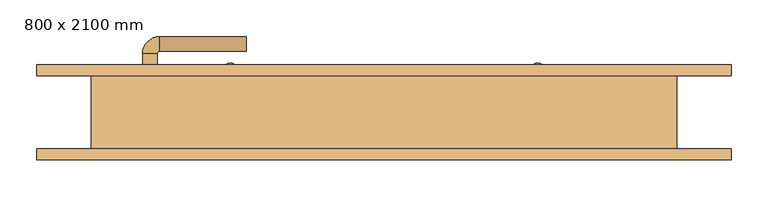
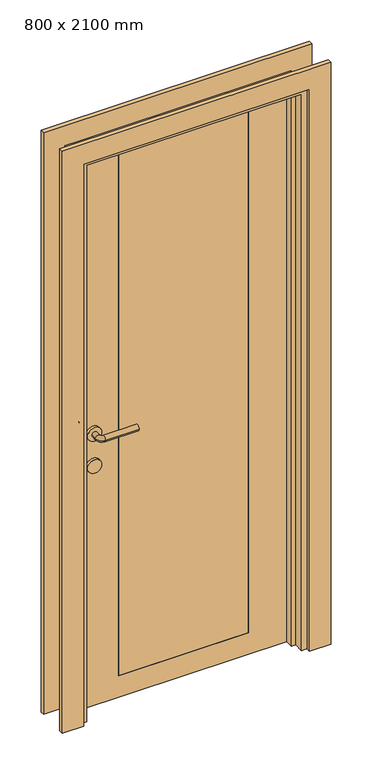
"""IFC4 building model written with IfcOpenShell, lengths in millimetres: door geometry, 单扇平开门-木门 : 800 x 2100 mm."""

import ifcopenshell
import ifcopenshell.guid

model = None  # the IFC model being written
_history = None  # IfcOwnerHistory: only IFC2X3 demands one
_inside = {}  # id of a spatial element -> (the spatial element, [elements in it])
_under = {}  # id of a project, library or spatial element -> (it, [spatial elements below it])
_declared = {}  # id of a project -> (the project, [libraries it declares])
_typed = {}  # id of a type object -> (the type object, [elements of that type])
_made_of = {}  # id of a material, layer set ... -> (it, [elements and type objects made of it])


def new_model(schema):
    """Start an empty IFC model of exactly this schema.

    Asked for "IFC4X3", IfcOpenShell would pick the latest addendum, in which some entities
    have other attributes; the version numbers below select the first issue.
    IFC2X3 requires an IfcOwnerHistory on every rooted entity: one is made here for all.
    """
    global model, _history
    if schema == "IFC4X3":
        model = ifcopenshell.file(schema_version=(4, 3, 0, 0))
    else:
        model = ifcopenshell.file(schema=schema)
    _inside.clear()
    _under.clear()
    _declared.clear()
    _typed.clear()
    _made_of.clear()
    _history = None
    if model.schema == "IFC2X3":
        org = make("IfcOrganization", Name="unknown")
        user = make(
            "IfcPersonAndOrganization",
            ThePerson=make("IfcPerson", FamilyName="unknown"),
            TheOrganization=org,
        )
        app = make(
            "IfcApplication",
            ApplicationDeveloper=org,
            Version="unknown",
            ApplicationFullName="unknown",
            ApplicationIdentifier="unknown",
        )
        _history = make(
            "IfcOwnerHistory",
            OwningUser=user,
            OwningApplication=app,
            ChangeAction="ADDED",
            CreationDate=0,
        )
    return model


def make(cls, **values):
    """One entity of the class cls with the attributes given. An attribute that is None is left unset."""
    return model.create_entity(
        cls, **{name: value for name, value in values.items() if value is not None}
    )


def rooted(cls, **values):
    """An entity with a GlobalId (a new one), such as an element, a storey or a relation."""
    return make(cls, GlobalId=ifcopenshell.guid.new(), OwnerHistory=_history, **values)


def si_unit(unit_type, name, prefix=None):
    """IfcSIUnit, for example si_unit("LENGTHUNIT", "METRE", prefix="MILLI")."""
    return make("IfcSIUnit", UnitType=unit_type, Prefix=prefix, Name=name)


def assignment(units):
    """IfcUnitAssignment: the units of a project."""
    return None if units is None else make("IfcUnitAssignment", Units=units)


def point(xyz):
    """IfcCartesianPoint."""
    return None if xyz is None else make("IfcCartesianPoint", Coordinates=xyz)


def direction(xyz):
    """IfcDirection."""
    return None if xyz is None else make("IfcDirection", DirectionRatios=xyz)


def frame(location, z_axis=None, x_axis=None):
    """IfcAxis2Placement3D, a coordinate frame: its origin and axes. An axis left out is left unset."""
    return make(
        "IfcAxis2Placement3D",
        Location=point(location),
        Axis=direction(z_axis),
        RefDirection=direction(x_axis),
    )


def frame_2d(location, x_axis=None):
    """IfcAxis2Placement2D, a coordinate frame in the plane: its origin and x axis."""
    return make(
        "IfcAxis2Placement2D", Location=point(location), RefDirection=direction(x_axis)
    )


def origin():
    """The frame at (0, 0, 0) with its axes left unset."""
    return frame((0.0, 0.0, 0.0))


def origin_with_axes():
    """The frame at (0, 0, 0) with the z axis (0, 0, 1) and the x axis (1, 0, 0) written out."""
    return frame((0.0, 0.0, 0.0), z_axis=(0.0, 0.0, 1.0), x_axis=(1.0, 0.0, 0.0))


def place(relative_to, where):
    """IfcLocalPlacement: puts the frame where relative to a parent placement (None: the world)."""
    return make(
        "IfcLocalPlacement", PlacementRelTo=relative_to, RelativePlacement=where
    )


def context(
    kind, dimensions, precision=None, world=None, true_north=None, identifier=None
):
    """IfcGeometricRepresentationContext, for example the 3D "Model" context."""
    return make(
        "IfcGeometricRepresentationContext",
        ContextIdentifier=identifier,
        ContextType=kind,
        CoordinateSpaceDimension=dimensions,
        Precision=precision,
        WorldCoordinateSystem=world,
        TrueNorth=true_north,
    )


def project(units=None, contexts=None):
    """IfcProject with its units and contexts."""
    return rooted(
        "IfcProject",
        Name="project",
        RepresentationContexts=contexts,
        UnitsInContext=assignment(units),
    )


def spatial(cls, under=None, at=None, **own):
    """A site, building, storey or space (cls), placed at a placement, below another one or the project."""
    s = rooted(cls, ObjectPlacement=at, **own)
    if under is not None:
        _under.setdefault(under.id(), (under, []))[1].append(s)
    return s


def polyline(points):
    """IfcPolyline through the points."""
    return make("IfcPolyline", Points=[point(p) for p in points])


def circle_curve(where, radius):
    """IfcCircle in the frame where."""
    return make("IfcCircle", Position=where, Radius=radius)


def ellipse_curve(where, semi_axis1, semi_axis2):
    """IfcEllipse in the frame where."""
    return make(
        "IfcEllipse", Position=where, SemiAxis1=semi_axis1, SemiAxis2=semi_axis2
    )


def trimmed(basis, trim1, trim2, sense, master):
    """IfcTrimmedCurve: the piece of a basis curve between two trims."""
    return make(
        "IfcTrimmedCurve",
        BasisCurve=basis,
        Trim1=trim1,
        Trim2=trim2,
        SenseAgreement=sense,
        MasterRepresentation=master,
    )


def segment(curve, same_sense, transition):
    """IfcCompositeCurveSegment."""
    return make(
        "IfcCompositeCurveSegment",
        Transition=transition,
        SameSense=same_sense,
        ParentCurve=curve,
    )


def composite_curve(segments, self_intersect=None):
    """IfcCompositeCurve: segments joined end to end."""
    return make("IfcCompositeCurve", Segments=segments, SelfIntersect=self_intersect)


def outline(outer, holes=None, kind="AREA"):
    """IfcArbitraryClosedProfileDef: a profile drawn as a closed curve; with holes, ...WithVoids."""
    if holes is None:
        return make("IfcArbitraryClosedProfileDef", ProfileType=kind, OuterCurve=outer)
    return make(
        "IfcArbitraryProfileDefWithVoids",
        ProfileType=kind,
        OuterCurve=outer,
        InnerCurves=holes,
    )


def extrude(swept, where, along, depth):
    """IfcExtrudedAreaSolid: the profile swept, set in the frame where, extruded along a direction by depth."""
    return make(
        "IfcExtrudedAreaSolid",
        SweptArea=swept,
        Position=where,
        ExtrudedDirection=direction(along),
        Depth=depth,
    )


def faces_of(points, faces, orient=None, outer=None):
    """IfcFace entities. A face is a list of loops; a loop is a list of indices into points, from 0.

    orient and outer hold one flag for each loop. By default every Orientation is true, the
    first loop of a face is its IfcFaceOuterBound and the others are IfcFaceBound.
    """
    made = []
    for i, loops in enumerate(faces):
        bounds = []
        for j, loop in enumerate(loops):
            is_outer = j == 0 if outer is None else outer[i][j]
            bounds.append(
                make(
                    "IfcFaceOuterBound" if is_outer else "IfcFaceBound",
                    Bound=make("IfcPolyLoop", Polygon=[points[k] for k in loop]),
                    Orientation=True if orient is None else orient[i][j],
                )
            )
        made.append(make("IfcFace", Bounds=bounds))
    return made


def faceted_brep(points, faces, orient=None, outer=None, voids=None):
    """IfcFacetedBrep: a solid bounded by flat faces; with voids (closed shells), ...WithVoids."""
    shared = [point(p) for p in points]
    hull = make("IfcClosedShell", CfsFaces=faces_of(shared, faces, orient, outer))
    if voids is None:
        return make("IfcFacetedBrep", Outer=hull)
    return make(
        "IfcFacetedBrepWithVoids",
        Outer=hull,
        Voids=[
            make(cls, CfsFaces=faces_of(shared, fs, o, b)) for cls, fs, o, b in voids
        ],
    )


def shape(context_of_items, identifier, shape_type, items):
    """IfcShapeRepresentation: the items that make up one representation, for example the "Body"."""
    return make(
        "IfcShapeRepresentation",
        ContextOfItems=context_of_items,
        RepresentationIdentifier=identifier,
        RepresentationType=shape_type,
        Items=items,
    )


def source(mapping_origin, context_of_items, identifier, shape_type, items):
    """IfcRepresentationMap: a shape defined once, which mapped items show again and again."""
    return make(
        "IfcRepresentationMap",
        MappingOrigin=mapping_origin,
        MappedRepresentation=shape(context_of_items, identifier, shape_type, items),
    )


def transform(
    local_origin,
    x_axis=None,
    y_axis=None,
    z_axis=None,
    scale=None,
    scale2=None,
    scale3=None,
    uniform=True,
):
    """IfcCartesianTransformationOperator3D, or its non-uniform kind. x_axis, y_axis, z_axis: its Axis1, 2, 3."""
    if uniform:
        return make(
            "IfcCartesianTransformationOperator3D",
            Axis1=direction(x_axis),
            Axis2=direction(y_axis),
            LocalOrigin=point(local_origin),
            Scale=scale,
            Axis3=direction(z_axis),
        )
    return make(
        "IfcCartesianTransformationOperator3DnonUniform",
        Axis1=direction(x_axis),
        Axis2=direction(y_axis),
        LocalOrigin=point(local_origin),
        Scale=scale,
        Axis3=direction(z_axis),
        Scale2=scale2,
        Scale3=scale3,
    )


def mapped(mapping_source, mapping_target):
    """IfcMappedItem: shows the shape of a source again, moved by a transform."""
    return make(
        "IfcMappedItem", MappingSource=mapping_source, MappingTarget=mapping_target
    )


def made_of(thing, what):
    """Note that an element or type object is made of a material, layer set ...; save() writes the relation."""
    if what is not None:
        _made_of.setdefault(what.id(), (what, []))[1].append(thing)
    return thing


def element(
    cls,
    number,
    at=None,
    inside=None,
    cuts=None,
    type_object=None,
    material=None,
    context=None,
    identifier="Body",
    shape_type=None,
    held_by="IfcProductDefinitionShape",
    body=None,
    shapes=None,
    **own,
):
    """One element of the class cls, such as IfcWall. Its Tag is "e" and its number.

    at: its placement. inside: the storey or other place that contains it. cuts: it is an
    opening in that element (IfcRelVoidsElement). A single representation is given by context,
    identifier, shape_type and body (its items); several are given by shapes. held_by: the class
    of the entity that holds the representations. save() writes the other relations.
    """
    e = rooted(cls, Tag="e%d" % number, ObjectPlacement=at, **own)
    if body is not None:
        shapes = [shape(context, identifier, shape_type, body)]
    if shapes is not None:
        e.Representation = make(held_by, Representations=shapes)
    if inside is not None:
        _inside.setdefault(inside.id(), (inside, []))[1].append(e)
    if cuts is not None:
        rooted(
            "IfcRelVoidsElement", RelatingBuildingElement=cuts, RelatedOpeningElement=e
        )
    if type_object is not None:
        _typed.setdefault(type_object.id(), (type_object, []))[1].append(e)
    return made_of(e, material)


def aggregate(whole, parts):
    """IfcRelAggregates: a whole, such as a stair, and the parts it consists of."""
    return rooted("IfcRelAggregates", RelatingObject=whole, RelatedObjects=parts)


def save(model, path):
    """Write the relations noted so far, then the file.

    IfcRelAggregates (storeys below a building ...), IfcRelContainedInSpatialStructure (elements
    in a storey), IfcRelDefinesByType, IfcRelAssociatesMaterial and IfcRelDeclares: one each for
    every whole, place, type object, material and project.
    """
    for whole, parts in _under.values():
        aggregate(whole, parts)
    for where, things in _inside.values():
        rooted(
            "IfcRelContainedInSpatialStructure",
            RelatedElements=things,
            RelatingStructure=where,
        )
    for kind, things in _typed.values():
        rooted("IfcRelDefinesByType", RelatedObjects=things, RelatingType=kind)
    for what, things in _made_of.values():
        rooted("IfcRelAssociatesMaterial", RelatedObjects=things, RelatingMaterial=what)
    for by, libraries in _declared.values():
        rooted("IfcRelDeclares", RelatingContext=by, RelatedDefinitions=libraries)
    model.write(path)


def plane_surface(at):
    """IfcPlane: the flat surface through the origin of the frame at, square to its z axis."""
    return make("IfcPlane", Position=at)


def cylinder_surface(at, radius):
    """IfcCylindricalSurface: all points at the distance radius from the z axis of the frame at."""
    return make("IfcCylindricalSurface", Position=at, Radius=radius)


def revolved_surface(curve, axis_point, axis_direction):
    """IfcSurfaceOfRevolution: the curve turned about the line through axis_point along axis_direction."""
    return make(
        "IfcSurfaceOfRevolution",
        SweptCurve=make("IfcArbitraryOpenProfileDef", ProfileType="CURVE", Curve=curve),
        AxisPosition=make("IfcAxis1Placement", Location=point(axis_point), Axis=direction(axis_direction)),
    )


def advanced_brep(points, edges, surfaces, faces):
    """IfcAdvancedBrep: a solid bounded by faces that lie on surfaces and meet in shared edges.

    An edge is (start, end): straight between two places in points (the first is 0);
    or (start, end, curve); or (start, end, curve, False) where it runs against its curve.
    A face is (place in surfaces, loops), or (place, loops, False) where it looks against
    its surface's normal. A loop lists edges by number (the first is 1), with a minus sign
    where the edge is run from its end to its start. The first loop is the outer one.
    """
    corners = [point(p) for p in points]
    vertices = [make("IfcVertexPoint", VertexGeometry=c) for c in corners]
    made = []
    for start, end, *more in edges:
        made.append(
            make(
                "IfcEdgeCurve",
                EdgeStart=vertices[start],
                EdgeEnd=vertices[end],
                EdgeGeometry=more[0] if more else make("IfcPolyline", Points=[corners[start], corners[end]]),
                SameSense=more[1] if len(more) > 1 else True,
            )
        )
    hull = []
    for where, loops, *sense in faces:
        bounds = []
        for j, loop in enumerate(loops):
            ring = [make("IfcOrientedEdge", EdgeElement=made[abs(k) - 1], Orientation=k > 0) for k in loop]
            bounds.append(
                make(
                    "IfcFaceOuterBound" if j == 0 else "IfcFaceBound",
                    Bound=make("IfcEdgeLoop", EdgeList=ring),
                    Orientation=True,
                )
            )
        hull.append(make("IfcAdvancedFace", Bounds=bounds, FaceSurface=surfaces[where], SameSense=sense[0] if sense else True))
    return make("IfcAdvancedBrep", Outer=make("IfcClosedShell", CfsFaces=hull))


def door_800_x_2100_mm_cdd5fc6d(model_context):
    return source(origin(), model_context, "Body", "SolidModel", [
        extrude(outline(composite_curve([segment(trimmed(circle_curve(frame_2d((900.0, -320.0)), 25.0), [point((900.0, -295.0))], [point((900.0, -345.0))], False, "CARTESIAN"), True, "CONTINUOUS"), segment(trimmed(circle_curve(frame_2d((900.0, -320.0)), 25.0), [point((900.0, -345.0))], [point((900.0, -295.0))], False, "CARTESIAN"), True, "CONTINUOUS")], self_intersect=False)), frame((0.0, 5.0, 0.0), z_axis=(0.0, 1.0, 0.0), x_axis=(0.0, 0.0, 1.0)), (0.0, 0.0, 1.0), 10.0),
        extrude(outline(composite_curve([segment(trimmed(circle_curve(frame_2d((900.0, -320.0)), 25.0), [point((900.0, -295.0))], [point((900.0, -345.0))], False, "CARTESIAN"), True, "CONTINUOUS"), segment(trimmed(circle_curve(frame_2d((900.0, -320.0)), 25.0), [point((900.0, -345.0))], [point((900.0, -295.0))], False, "CARTESIAN"), True, "CONTINUOUS")], self_intersect=False)), frame((0.0, 50.0, 0.0), z_axis=(0.0, 1.0, 0.0), x_axis=(0.0, 0.0, 1.0)), (0.0, 0.0, 1.0), 10.0),
        advanced_brep(
        [(-330.0, 5.0, 1020.0), (-310.0, 5.0, 1020.0), (-310.0, -15.613355, 1020.0), (-330.0, -15.613355, 1020.0), (-188.419036, -38.580964, 1020.0), (-188.419036, -18.580964, 1020.0), (-307.0323911, -18.580964, 1020.0), (-307.0323911, -38.580964, 1020.0)],
        [
            (0, 1, circle_curve(frame((-320.0, 5.0, 1020.0), z_axis=(0.0, 1.0, 0.0), x_axis=(1.0, 0.0, 0.0)), 10.0)),
            (1, 0, circle_curve(frame((-320.0, 5.0, 1020.0), z_axis=(0.0, 1.0, 0.0), x_axis=(1.0, 0.0, 0.0)), 10.0)),
            (1, 2),
            (2, 3, circle_curve(frame((-320.0, -15.613355, 1020.0), z_axis=(0.0, 1.0, 0.0), x_axis=(1.0, 0.0, 0.0)), 10.0)),
            (3, 0),
            (3, 2, circle_curve(frame((-320.0, -15.613355, 1020.0), z_axis=(0.0, 1.0, 0.0), x_axis=(1.0, 0.0, 0.0)), 10.0)),
            (4, 5, circle_curve(frame((-188.419036, -28.580964, 1020.0), z_axis=(1.0, 0.0, 0.0), x_axis=(0.0, 1.0, 0.0)), 10.0)),
            (5, 4, circle_curve(frame((-188.419036, -28.580964, 1020.0), z_axis=(1.0, 0.0, 0.0), x_axis=(0.0, 1.0, 0.0)), 10.0)),
            (6, 2, circle_curve(frame((-307.0323911, -15.613355, 1020.0), z_axis=(0.0, 0.0, -1.0), x_axis=(-1.0, 0.0, 0.0)), 2.9676089)),
            (3, 7, circle_curve(frame((-307.0323911, -15.613355, 1020.0), z_axis=(0.0, 0.0, 1.0), x_axis=(-1.0, 0.0, 0.0)), 22.9676089)),
            (7, 6, circle_curve(frame((-307.0323911, -28.580964, 1020.0), z_axis=(-1.0, 0.0, 0.0), x_axis=(0.0, 1.0, 0.0)), 10.0)),
            (6, 7, circle_curve(frame((-307.0323911, -28.580964, 1020.0), z_axis=(-1.0, 0.0, 0.0), x_axis=(0.0, 1.0, 0.0)), 10.0)),
            (7, 4),
            (5, 6),
        ],
        [
            plane_surface(frame((-320.0, 5.0, 900.0), z_axis=(0.0, 1.0, 0.0), x_axis=(0.0, 0.0, 1.0))),
            cylinder_surface(frame((-320.0, 5.0, 1020.0), z_axis=(0.0, 1.0, 0.0), x_axis=(1.0, 0.0, 0.0)), 10.0),
            plane_surface(frame((-188.419036, -28.580964, 900.0), z_axis=(1.0, 0.0, 0.0), x_axis=(0.0, 0.0, 1.0))),
            revolved_surface(trimmed(ellipse_curve(frame((-320.0, -15.613355, 1020.0), z_axis=(0.0, 1.0, 0.0), x_axis=(1.0, 0.0, 0.0)), 10.0, 10.0), [point((-330.0, -15.613355, 1020.0))], [point((-310.0, -15.613355, 1020.0))], True, "CARTESIAN"), (-307.0323911, -15.613355, 900.0), (0.0, 0.0, 1.0)),
            revolved_surface(trimmed(ellipse_curve(frame((-320.0, -15.613355, 1020.0), z_axis=(0.0, 1.0, 0.0), x_axis=(1.0, 0.0, 0.0)), 10.0, 10.0), [point((-310.0, -15.613355, 1020.0))], [point((-330.0, -15.613355, 1020.0))], True, "CARTESIAN"), (-307.0323911, -15.613355, 900.0), (0.0, 0.0, 1.0)),
            cylinder_surface(frame((-307.0323911, -28.580964, 1020.0), z_axis=(-1.0, 0.0, 0.0), x_axis=(0.0, 1.0, 0.0)), 10.0),
        ],
        [
            (0, [[1, 2]]),
            (1, [[-2, 3, 4, 5]]),
            (1, [[-1, -5, 6, -3]]),
            (2, [[7, 8]]),
            (3, [[9, -6, 10, 11]]),
            (4, [[-10, -4, -9, 12]]),
            (5, [[-11, 13, -8, 14]]),
            (5, [[-12, -14, -7, -13]]),
        ],
    ),
        extrude(outline(composite_curve([segment(trimmed(circle_curve(frame_2d((1020.0, -320.0)), 25.0), [point((1020.0, -295.0))], [point((1020.0, -345.0))], False, "CARTESIAN"), True, "CONTINUOUS"), segment(trimmed(circle_curve(frame_2d((1020.0, -320.0)), 25.0), [point((1020.0, -345.0))], [point((1020.0, -295.0))], False, "CARTESIAN"), True, "CONTINUOUS")], self_intersect=False)), frame((0.0, 5.0, 0.0), z_axis=(0.0, 1.0, 0.0), x_axis=(0.0, 0.0, 1.0)), (0.0, 0.0, 1.0), 10.0),
        advanced_brep(
        [(-310.0, 60.0, 1020.0), (-330.0, 60.0, 1020.0), (-310.0, 80.6133551, 1020.0), (-330.0, 80.6133551, 1020.0), (-188.419036, 83.580964, 1020.0), (-188.419036, 103.580964, 1020.0), (-307.0323911, 103.580964, 1020.0), (-307.0323911, 83.580964, 1020.0)],
        [
            (0, 1, circle_curve(frame((-320.0, 60.0, 1020.0), z_axis=(0.0, -1.0, 0.0), x_axis=(-1.0, 0.0, 0.0)), 10.0)),
            (1, 0, circle_curve(frame((-320.0, 60.0, 1020.0), z_axis=(0.0, -1.0, 0.0), x_axis=(-1.0, 0.0, 0.0)), 10.0)),
            (0, 2),
            (2, 3, circle_curve(frame((-320.0, 80.6133551, 1020.0), z_axis=(0.0, -1.0, 0.0), x_axis=(-1.0, 0.0, 0.0)), 10.0)),
            (3, 1),
            (3, 2, circle_curve(frame((-320.0, 80.6133551, 1020.0), z_axis=(0.0, -1.0, 0.0), x_axis=(-1.0, 0.0, 0.0)), 10.0)),
            (4, 5, circle_curve(frame((-188.419036, 93.580964, 1020.0), z_axis=(1.0, 0.0, 0.0), x_axis=(0.0, 1.0, 0.0)), 10.0)),
            (5, 4, circle_curve(frame((-188.419036, 93.580964, 1020.0), z_axis=(1.0, 0.0, 0.0), x_axis=(0.0, 1.0, 0.0)), 10.0)),
            (6, 3, circle_curve(frame((-307.0323911, 80.6133551, 1020.0), z_axis=(0.0, 0.0, 1.0), x_axis=(-1.0, 0.0, 0.0)), 22.9676089)),
            (2, 7, circle_curve(frame((-307.0323911, 80.6133551, 1020.0), z_axis=(0.0, 0.0, -1.0), x_axis=(-1.0, 0.0, 0.0)), 2.9676089)),
            (7, 6, circle_curve(frame((-307.0323911, 93.580964, 1020.0), z_axis=(-1.0, 0.0, 0.0), x_axis=(0.0, 1.0, 0.0)), 10.0)),
            (6, 7, circle_curve(frame((-307.0323911, 93.580964, 1020.0), z_axis=(-1.0, 0.0, 0.0), x_axis=(0.0, 1.0, 0.0)), 10.0)),
            (7, 4),
            (5, 6),
        ],
        [
            plane_surface(frame((-320.0, 60.0, 900.0), z_axis=(0.0, -1.0, 0.0), x_axis=(0.0, 0.0, 1.0))),
            cylinder_surface(frame((-320.0, 60.0, 1020.0), z_axis=(0.0, -1.0, 0.0), x_axis=(-1.0, 0.0, 0.0)), 10.0),
            plane_surface(frame((-188.419036, 93.580964, 900.0), z_axis=(1.0, 0.0, 0.0), x_axis=(0.0, 0.0, 1.0))),
            revolved_surface(trimmed(ellipse_curve(frame((-320.0, 80.6133551, 1020.0), z_axis=(0.0, -1.0, 0.0), x_axis=(-1.0, 0.0, 0.0)), 10.0, 10.0), [point((-310.0, 80.6133551, 1020.0))], [point((-330.0, 80.6133551, 1020.0))], True, "CARTESIAN"), (-307.0323911, 80.6133551, 900.0), (0.0, 0.0, -1.0)),
            revolved_surface(trimmed(ellipse_curve(frame((-320.0, 80.6133551, 1020.0), z_axis=(0.0, -1.0, 0.0), x_axis=(-1.0, 0.0, 0.0)), 10.0, 10.0), [point((-330.0, 80.6133551, 1020.0))], [point((-310.0, 80.6133551, 1020.0))], True, "CARTESIAN"), (-307.0323911, 80.6133551, 900.0), (0.0, 0.0, -1.0)),
            cylinder_surface(frame((-307.0323911, 93.580964, 1020.0), z_axis=(-1.0, 0.0, 0.0), x_axis=(0.0, 1.0, 0.0)), 10.0),
        ],
        [
            (0, [[1, 2]]),
            (1, [[-1, 3, 4, 5]]),
            (1, [[-2, -5, 6, -3]]),
            (2, [[7, 8]]),
            (3, [[9, -4, 10, 11]]),
            (4, [[-10, -6, -9, 12]]),
            (5, [[-11, 13, -8, 14]]),
            (5, [[-12, -14, -7, -13]]),
        ],
    ),
        extrude(outline(composite_curve([segment(trimmed(circle_curve(frame_2d((1020.0, -320.0)), 25.0), [point((1020.0, -295.0))], [point((1020.0, -345.0))], False, "CARTESIAN"), True, "CONTINUOUS"), segment(trimmed(circle_curve(frame_2d((1020.0, -320.0)), 25.0), [point((1020.0, -345.0))], [point((1020.0, -295.0))], False, "CARTESIAN"), True, "CONTINUOUS")], self_intersect=False)), frame((0.0, 50.0, 0.0), z_axis=(0.0, 1.0, 0.0), x_axis=(0.0, 0.0, 1.0)), (0.0, 0.0, 1.0), 10.0),
        extrude(outline(polyline([(2100.0, -400.0), (2100.0, 400.0), (0.0, 400.0), (0.0, 475.0), (2175.0, 475.0), (2175.0, -475.0), (0.0, -475.0), (0.0, -400.0), (2100.0, -400.0)])), frame((0.0, 50.0, 0.0), z_axis=(0.0, 1.0, 0.0), x_axis=(0.0, 0.0, 1.0)), (0.0, 0.0, 1.0), 15.0),
        extrude(outline(polyline([(2175.0, -475.0), (0.0, -475.0), (0.0, -400.0), (2100.0, -400.0), (2100.0, 400.0), (0.0, 400.0), (0.0, 475.0), (2175.0, 475.0), (2175.0, -475.0)])), frame((0.0, -65.0, 0.0), z_axis=(0.0, 1.0, 0.0), x_axis=(0.0, 0.0, 1.0)), (0.0, 0.0, 1.0), 15.0),
        extrude(outline(polyline([(2080.0, 380.0), (2080.0, -380.0), (0.0, -380.0), (0.0, 380.0), (2080.0, 380.0)]), holes=[polyline([(2060.0, 230.0), (80.0, 230.0), (80.0, -230.0), (2060.0, -230.0), (2060.0, 230.0)])]), frame((0.0, 15.0, 0.0), z_axis=(0.0, 1.0, 0.0), x_axis=(0.0, 0.0, 1.0)), (0.0, 0.0, 1.0), 35.0),
        extrude(outline(composite_curve([segment(polyline([(-230.0, 50.0), (-230.0, 51.0)]), True, "CONTINUOUS"), segment(trimmed(circle_curve(frame_2d((-223.0, 51.0)), 7.0), [point((-230.0, 51.0))], [point((-223.0, 58.0))], False, "CARTESIAN"), True, "CONTINUOUS"), segment(trimmed(circle_curve(frame_2d((-210.0, 53.3201295)), 13.8166996), [point((-223.0, 58.0))], [point((-197.0, 58.0))], False, "CARTESIAN"), True, "CONTINUOUS"), segment(trimmed(circle_curve(frame_2d((-197.0, 51.0)), 7.0), [point((-197.0, 58.0))], [point((-190.0, 51.0))], False, "CARTESIAN"), True, "CONTINUOUS"), segment(polyline([(-190.0, 51.0), (-190.0, 50.0), (-230.0, 50.0)]), True, "CONTINUOUS")], self_intersect=False)), origin_with_axes(), (0.0, 0.0, 1.0), 2080.0),
        extrude(outline(composite_curve([segment(polyline([(230.0, 50.0), (190.0, 50.0), (190.0, 51.0)]), True, "CONTINUOUS"), segment(trimmed(circle_curve(frame_2d((197.0, 51.0)), 7.0), [point((190.0, 51.0))], [point((197.0, 58.0))], False, "CARTESIAN"), True, "CONTINUOUS"), segment(trimmed(circle_curve(frame_2d((210.0, 53.3201295)), 13.8166996), [point((197.0, 58.0))], [point((223.0, 58.0))], False, "CARTESIAN"), True, "CONTINUOUS"), segment(trimmed(circle_curve(frame_2d((223.0, 51.0)), 7.0), [point((223.0, 58.0))], [point((230.0, 51.0))], False, "CARTESIAN"), True, "CONTINUOUS"), segment(polyline([(230.0, 51.0), (230.0, 50.0)]), True, "CONTINUOUS")], self_intersect=False)), origin_with_axes(), (0.0, 0.0, 1.0), 2080.0),
        extrude(outline(polyline([(230.0, 50.0), (230.0, 15.0), (-230.0, 15.0), (-230.0, 50.0), (230.0, 50.0)])), frame((0.0, 0.0, 80.0), z_axis=(0.0, 0.0, 1.0), x_axis=(1.0, 0.0, 0.0)), (0.0, 0.0, 1.0), 1980.0),
        faceted_brep([(400.0, 50.0, 0.0), (400.0, -50.0, 0.0), (380.0, -50.0, 0.0), (380.0, -15.0, 0.0), (365.0, -15.0, 0.0), (365.0, 15.0, 0.0), (380.0, 15.0, 0.0), (380.0, 50.0, 0.0), (400.0, 50.0, 2100.0), (400.0, -50.0, 2100.0), (-400.0, -50.0, 2100.0), (-400.0, -50.0, 0.0), (-380.0, -50.0, 0.0), (-380.0, -50.0, 2080.0), (380.0, -50.0, 2080.0), (380.0, -15.0, 2080.0), (-380.0, -15.0, 2080.0), (-380.0, -15.0, 0.0), (-365.0, -15.0, 0.0), (-365.0, -15.0, 2065.0), (365.0, -15.0, 2065.0), (365.0, 15.0, 2065.0), (-365.0, 15.0, 2065.0), (-365.0, 15.0, 0.0), (-380.0, 15.0, 0.0), (-380.0, 15.0, 2080.0), (380.0, 15.0, 2080.0), (380.0, 50.0, 2080.0), (-380.0, 50.0, 2080.0), (-380.0, 50.0, 0.0), (-400.0, 50.0, 0.0), (-400.0, 50.0, 2100.0)], [[[0, 1, 2, 3, 4, 5, 6, 7]], [[1, 0, 8, 9]], [[2, 1, 9, 10, 11, 12, 13, 14]], [[3, 2, 14, 15]], [[4, 3, 15, 16, 17, 18, 19, 20]], [[5, 4, 20, 21]], [[6, 5, 21, 22, 23, 24, 25, 26]], [[7, 6, 26, 27]], [[0, 7, 27, 28, 29, 30, 31, 8]], [[9, 8, 31, 10]], [[15, 14, 13, 16]], [[21, 20, 19, 22]], [[27, 26, 25, 28]], [[30, 29, 24, 23, 18, 17, 12, 11]], [[10, 31, 30, 11]], [[16, 13, 12, 17]], [[22, 19, 18, 23]], [[28, 25, 24, 29]]]),
    ])


if __name__ == "__main__":
    model = new_model("IFC4")
    model_context = context("Model", 3, world=origin())
    ifc_project = project(units=[si_unit("LENGTHUNIT", "METRE", prefix="MILLI")], contexts=[model_context])
    site = spatial("IfcSite", under=ifc_project)
    building = spatial("IfcBuilding", under=site)
    placement = place(None, origin())
    door_800_x_2100_mm_shape = door_800_x_2100_mm_cdd5fc6d(model_context)
    element("IfcDoor", 1, ObjectType="单扇平开门-木门 : 800 x 2100 mm", at=placement, inside=building, context=model_context, shape_type="MappedRepresentation", body=[
        mapped(door_800_x_2100_mm_shape, transform((0.0, 0.0, 0.0), x_axis=(1.0, 0.0, 0.0), y_axis=(0.0, 1.0, 0.0), z_axis=(0.0, 0.0, 1.0))),
    ])
    save(model, "model.ifc")
